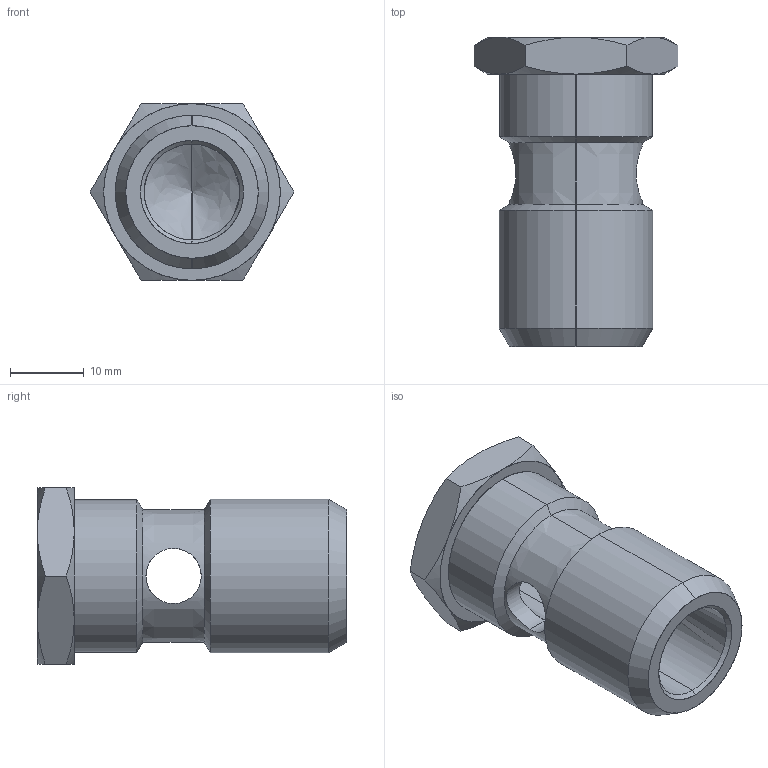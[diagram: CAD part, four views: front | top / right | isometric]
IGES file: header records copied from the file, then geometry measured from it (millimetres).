
Start section: SolidWorks IGES file using analytic representation for surfaces
Global section: file name: K:\Disegni Esecutivi\Serie 55000\55410\5541000010500.IGS; native system: SolidWorks 2008; preprocessor: SolidWorks 2008; author: cad02; date: 090225.083632; units: millimetre
Bounding box: 27.71 x 42 x 24 mm (x, y, z)
Surface area: 5146.5 mm2 (no closed solid volume)
Topology: 0 solids, 0 shells, 43 faces, 764 edges, 762 vertices
Faces by surface type: revolution 34, bspline 9
